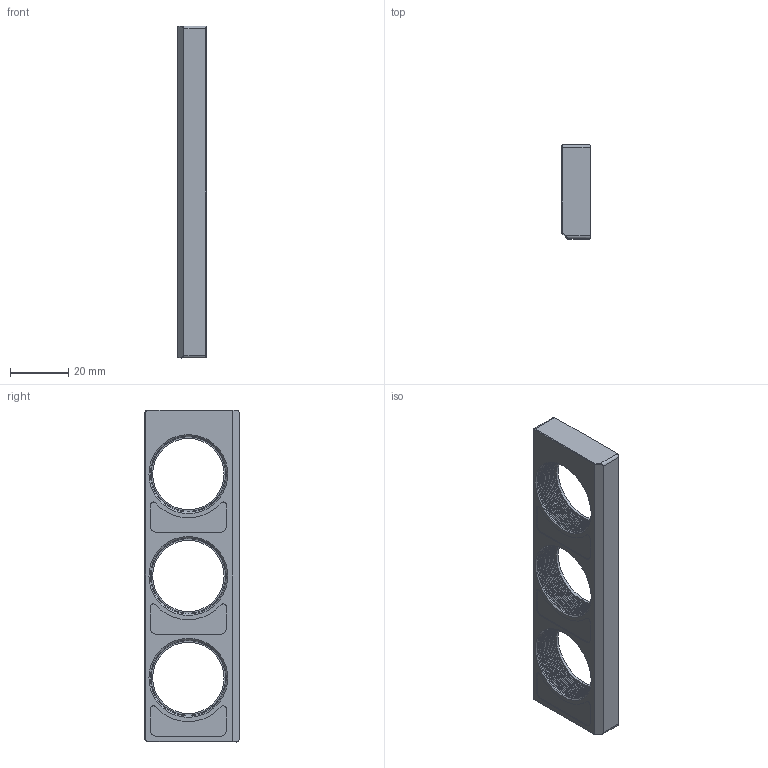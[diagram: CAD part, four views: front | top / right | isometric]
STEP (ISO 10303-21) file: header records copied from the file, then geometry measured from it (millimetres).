
FILE_DESCRIPTION((''),'2;1');
FILE_NAME('WO-X3','2020-10-19T',('Administrator'),(''),'CREO PARAMETRIC BY PTC INC, 2015290','CREO PARAMETRIC BY PTC INC, 2015290','');
FILE_SCHEMA(('CONFIG_CONTROL_DESIGN'));
Length unit declared in the file: millimetre
Products named in the file (1): WO-X3
Bounding box: 9.8 x 32.3 x 114 mm (x, y, z)
Volume: 20205.3 mm3; surface area: 10463.2 mm2
Topology: 1 solids, 1 shells, 206 faces, 550 edges, 352 vertices
Faces by surface type: cylinder 103, bspline 50, plane 43, cone 10
Entity records: 16433 total; most frequent: CARTESIAN_POINT 11814, ORIENTED_EDGE 1100, DIRECTION 698, EDGE_CURVE 550, VERTEX_POINT 352, VECTOR 252, LINE 252, B_SPLINE_CURVE_WITH_KNOTS 231
